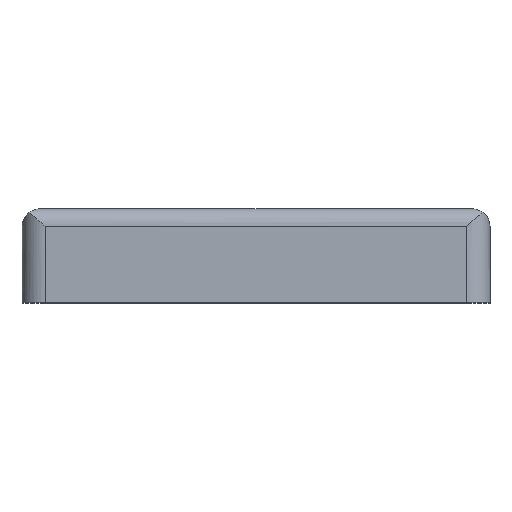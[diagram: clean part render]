
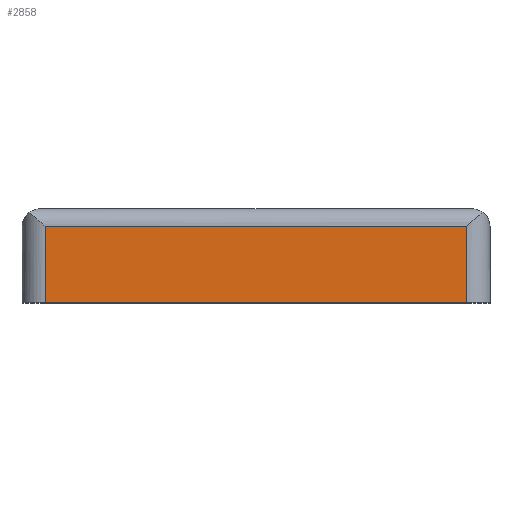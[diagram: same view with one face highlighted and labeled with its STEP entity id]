
A CAD part, top view. The second image highlights one B-rep face of the part: STEP entity #2858.
In plain terms, the highlighted planar face has unit normal (0, 0, 1).
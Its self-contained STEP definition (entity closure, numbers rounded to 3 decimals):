
#126 = VECTOR ( 'NONE', #3887, 1000. ) ;
#226 = EDGE_CURVE ( 'NONE', #3676, #552, #3478, .T. ) ;
#305 = DIRECTION ( 'NONE',  ( 1., 0., 0. ) ) ;
#323 = EDGE_CURVE ( 'NONE', #552, #2487, #3941, .T. ) ;
#417 = DIRECTION ( 'NONE',  ( 1., 0., 0. ) ) ;
#489 = CARTESIAN_POINT ( 'NONE',  ( 4., 0., 80. ) ) ;
#552 = VERTEX_POINT ( 'NONE', #2903 ) ;
#594 = ORIENTED_EDGE ( 'NONE', *, *, #3755, .T. ) ;
#716 = DIRECTION ( 'NONE',  ( -1., 0., 0. ) ) ;
#827 = EDGE_LOOP ( 'NONE', ( #3816, #2443, #594, #1547 ) ) ;
#1067 = LINE ( 'NONE', #3525, #2397 ) ;
#1210 = VECTOR ( 'NONE', #716, 1000. ) ;
#1389 = CARTESIAN_POINT ( 'NONE',  ( 0., 13., 80. ) ) ;
#1547 = ORIENTED_EDGE ( 'NONE', *, *, #1948, .T. ) ;
#1651 = FACE_OUTER_BOUND ( 'NONE', #827, .T. ) ;
#1689 = DIRECTION ( 'NONE',  ( 0., 1., 0. ) ) ;
#1774 = CARTESIAN_POINT ( 'NONE',  ( 4., 0., 80. ) ) ;
#1948 = EDGE_CURVE ( 'NONE', #2820, #3676, #1067, .T. ) ;
#1982 = CARTESIAN_POINT ( 'NONE',  ( 0., 0., 80. ) ) ;
#2136 = CARTESIAN_POINT ( 'NONE',  ( 76., 13., 80. ) ) ;
#2246 = LINE ( 'NONE', #3776, #3117 ) ;
#2397 = VECTOR ( 'NONE', #1689, 1000. ) ;
#2443 = ORIENTED_EDGE ( 'NONE', *, *, #323, .T. ) ;
#2487 = VERTEX_POINT ( 'NONE', #489 ) ;
#2820 = VERTEX_POINT ( 'NONE', #3723 ) ;
#2858 = ADVANCED_FACE ( 'NONE', ( #1651 ), #3157, .T. ) ;
#2903 = CARTESIAN_POINT ( 'NONE',  ( 4., 13., 80. ) ) ;
#3117 = VECTOR ( 'NONE', #305, 1000. ) ;
#3157 = PLANE ( 'NONE',  #3872 ) ;
#3179 = DIRECTION ( 'NONE',  ( 0., 0., 1. ) ) ;
#3478 = LINE ( 'NONE', #1389, #1210 ) ;
#3525 = CARTESIAN_POINT ( 'NONE',  ( 76., 0., 80. ) ) ;
#3676 = VERTEX_POINT ( 'NONE', #2136 ) ;
#3723 = CARTESIAN_POINT ( 'NONE',  ( 76., 0., 80. ) ) ;
#3755 = EDGE_CURVE ( 'NONE', #2487, #2820, #2246, .T. ) ;
#3776 = CARTESIAN_POINT ( 'NONE',  ( 0., 0., 80. ) ) ;
#3816 = ORIENTED_EDGE ( 'NONE', *, *, #226, .T. ) ;
#3872 = AXIS2_PLACEMENT_3D ( 'NONE', #1982, #3179, #417 ) ;
#3887 = DIRECTION ( 'NONE',  ( 0., -1., 0. ) ) ;
#3941 = LINE ( 'NONE', #1774, #126 ) ;
